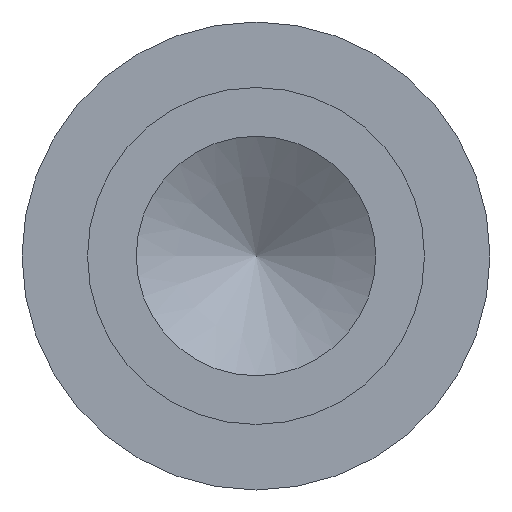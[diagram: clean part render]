
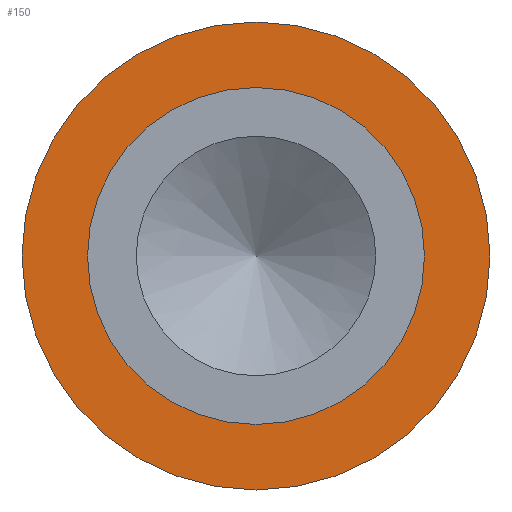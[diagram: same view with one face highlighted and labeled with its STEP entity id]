
A CAD part, left-side view. The second image highlights one B-rep face of the part: STEP entity #150.
In plain terms, the highlighted planar face has unit normal (-1, 0, 0).
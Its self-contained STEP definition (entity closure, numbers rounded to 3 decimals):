
#14=PLANE($,#174);
#23=FACE_BOUND($,#62,.T.);
#46=FACE_OUTER_BOUND($,#61,.T.);
#61=EDGE_LOOP($,(#126));
#62=EDGE_LOOP($,(#127));
#82=CIRCLE($,#172,1.143);
#84=CIRCLE($,#175,1.588);
#95=VERTEX_POINT($,#261);
#97=VERTEX_POINT($,#266);
#108=EDGE_CURVE($,#95,#95,#82,.T.);
#110=EDGE_CURVE($,#97,#97,#84,.T.);
#126=ORIENTED_EDGE($,*,*,#110,.F.);
#127=ORIENTED_EDGE($,*,*,#108,.T.);
#150=ADVANCED_FACE($,(#46,#23),#14,.T.);
#172=AXIS2_PLACEMENT_3D($,#262,#212,#213);
#174=AXIS2_PLACEMENT_3D($,#265,#216,#217);
#175=AXIS2_PLACEMENT_3D($,#267,#218,#219);
#212=DIRECTION('center_axis',(1.,0.,0.));
#213=DIRECTION('ref_axis',(0.,1.,0.));
#216=DIRECTION('center_axis',(-1.,0.,0.));
#217=DIRECTION('ref_axis',(0.,0.,1.));
#218=DIRECTION('center_axis',(1.,0.,0.));
#219=DIRECTION('ref_axis',(0.,1.,0.));
#261=CARTESIAN_POINT('',(2.769,1.143,0.));
#262=CARTESIAN_POINT('Origin',(2.769,0.,0.));
#265=CARTESIAN_POINT('Origin',(2.769,1.365,0.));
#266=CARTESIAN_POINT('',(2.769,1.588,0.));
#267=CARTESIAN_POINT('Origin',(2.769,0.,0.));
